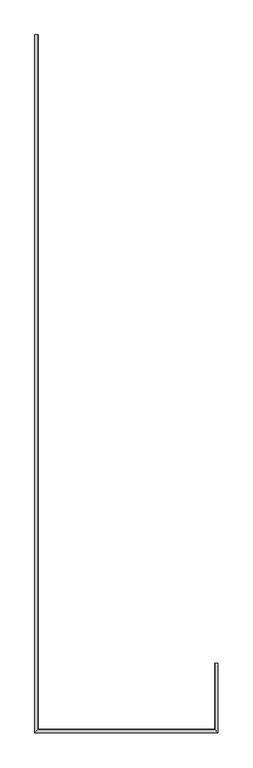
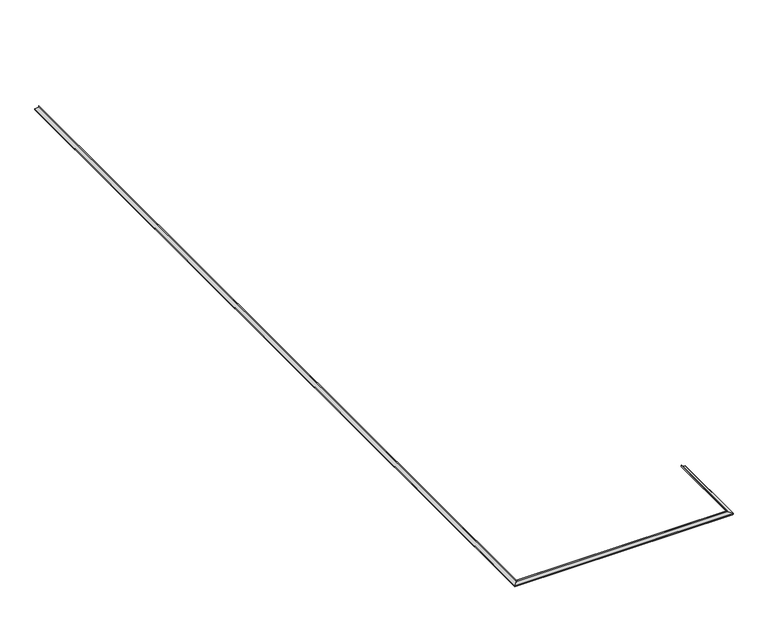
"""IFC4 building model written with IfcOpenShell, lengths in millimetres: proxy geometry, Карниз1 : Карниз."""

from ifc_helpers import new_model, si_unit, origin, place, context, project, spatial, faceted_brep, source, transform, mapped, element, save


def generic_models_92a117b2(model_context):
    return source(origin(), model_context, "Body", "Brep", [
        faceted_brep([(4800.0, 1610.3517467, 144.9877934), (4800.0, 1610.3517467, 114.9877934), (4800.0, -300.0, 114.9877934), (4800.0, -300.0, 144.9877934), (4803.0, 1610.3517467, 117.5050923), (4803.0, 1610.3517467, 144.9877934), (4803.0, -303.0, 144.9877934), (4803.0, -303.0, 117.5050923), (4894.7848515, 1610.3517467, 101.3209465), (4894.7848515, -394.7848515, 101.3209465), (4894.7848515, 1610.3517467, 79.5093488), (4894.7848515, -394.7848515, 79.5093488), (4888.0, 1610.3517467, 72.7244973), (4888.0, -388.0, 72.7244973), (4888.0, 1610.3517467, 67.7244973), (4888.0, -388.0, 67.7244973), (4885.0, 1610.3517467, 72.7244973), (4885.0, 1610.3517467, 67.7244973), (4885.0, -385.0, 67.7244973), (4885.0, -385.0, 72.7244973), (4891.7848515, 1610.3517467, 79.5093488), (4891.7848515, -391.7848515, 79.5093488), (4891.7848515, 1610.3517467, 98.8036476), (4891.7848515, -391.7848515, 98.8036476), (-300.0, -300.0, 114.9877934), (-300.0, -300.0, 144.9877934), (-303.0, -303.0, 144.9877934), (-303.0, -303.0, 117.5050923), (-394.7848515, -394.7848515, 101.3209465), (-394.7848515, -394.7848515, 79.5093488), (-388.0, -388.0, 72.7244973), (-388.0, -388.0, 67.7244973), (-385.0, -385.0, 67.7244973), (-385.0, -385.0, 72.7244973), (-391.7848515, -391.7848515, 79.5093488), (-391.7848515, -391.7848515, 98.8036476), (-300.0, 19739.9974866, 114.9877934), (-300.0, 19739.9974866, 144.9877934), (-303.0, 19739.9974866, 144.9877934), (-303.0, 19739.9974866, 117.5050923), (-394.7848515, 19739.9974866, 101.3209465), (-394.7848515, 19739.9974866, 79.5093488), (-388.0, 19739.9974866, 72.7244973), (-388.0, 19739.9974866, 67.7244973), (-385.0, 19739.9974866, 67.7244973), (-385.0, 19739.9974866, 72.7244973), (-391.7848515, 19739.9974866, 79.5093488), (-391.7848515, 19739.9974866, 98.8036476)], [[[0, 1, 2, 3]], [[4, 5, 6, 7]], [[8, 4, 7, 9]], [[10, 8, 9, 11]], [[12, 10, 11, 13]], [[14, 12, 13, 15]], [[16, 17, 18, 19]], [[20, 16, 19, 21]], [[22, 20, 21, 23]], [[1, 22, 23, 2]], [[3, 2, 24, 25]], [[7, 6, 26, 27]], [[9, 7, 27, 28]], [[11, 9, 28, 29]], [[13, 11, 29, 30]], [[15, 13, 30, 31]], [[19, 18, 32, 33]], [[21, 19, 33, 34]], [[23, 21, 34, 35]], [[2, 23, 35, 24]], [[25, 24, 36, 37]], [[27, 26, 38, 39]], [[28, 27, 39, 40]], [[29, 28, 40, 41]], [[30, 29, 41, 42]], [[31, 30, 42, 43]], [[33, 32, 44, 45]], [[34, 33, 45, 46]], [[35, 34, 46, 47]], [[24, 35, 47, 36]], [[1, 0, 5, 4, 8, 10, 12, 14, 17, 16, 20, 22]], [[5, 0, 3, 25, 37, 38, 26, 6]], [[17, 14, 15, 31, 43, 44, 32, 18]], [[36, 47, 46, 45, 44, 43, 42, 41, 40, 39, 38, 37]]]),
    ])


if __name__ == "__main__":
    model = new_model("IFC4")
    model_context = context("Model", 3, world=origin())
    ifc_project = project(units=[si_unit("LENGTHUNIT", "METRE", prefix="MILLI")], contexts=[model_context])
    site = spatial("IfcSite", under=ifc_project)
    building = spatial("IfcBuilding", under=site)
    placement = place(None, origin())
    generic_models_shape = generic_models_92a117b2(model_context)
    element("IfcBuildingElementProxy", 1, Name="Карниз1 : Карниз", ObjectType="Карниз1 : Карниз", at=placement, inside=building, context=model_context, shape_type="MappedRepresentation", body=[
        mapped(generic_models_shape, transform((0.0, 0.0, 0.0), x_axis=(1.0, 0.0, 0.0), y_axis=(0.0, 1.0, 0.0), z_axis=(0.0, 0.0, 1.0))),
    ])
    save(model, "model.ifc")
